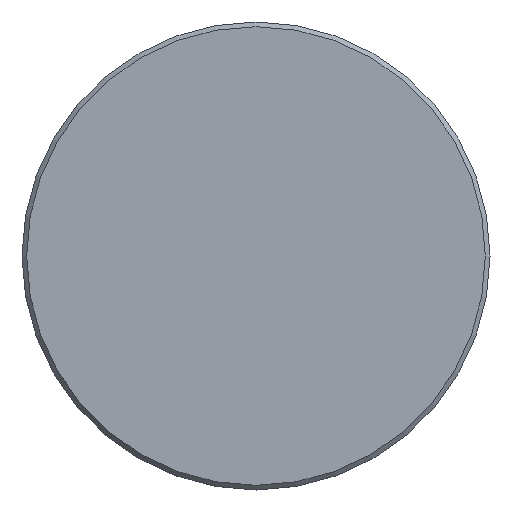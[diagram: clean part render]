
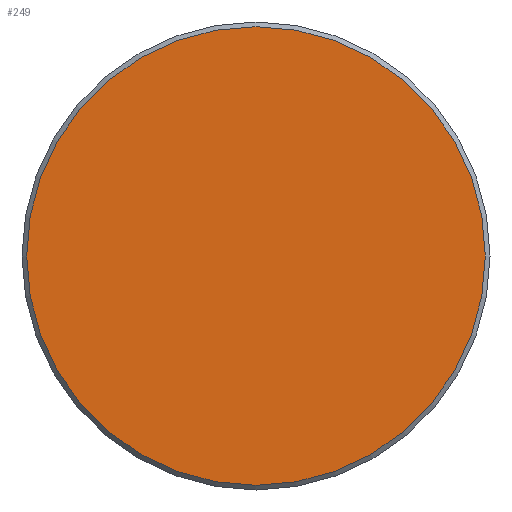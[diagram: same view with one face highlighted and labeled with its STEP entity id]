
A CAD part, front view. The second image highlights one B-rep face of the part: STEP entity #249.
In plain terms, the highlighted planar face has unit normal (0, -1, 0).
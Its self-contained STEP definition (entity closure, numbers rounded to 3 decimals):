
#249 = ADVANCED_FACE( '', ( #474 ), #475, .F. );
#474 = FACE_OUTER_BOUND( '', #674, .T. );
#475 = PLANE( '', #675 );
#674 = EDGE_LOOP( '', ( #1096 ) );
#675 = AXIS2_PLACEMENT_3D( '', #1097, #1098, #1099 );
#1096 = ORIENTED_EDGE( '', *, *, #1215, .T. );
#1097 = CARTESIAN_POINT( '', ( 24.5, 0., 0. ) );
#1098 = DIRECTION( '', ( 0., 1., 0. ) );
#1099 = DIRECTION( '', ( 0., 0., 1. ) );
#1215 = EDGE_CURVE( '', #1427, #1427, #1428, .T. );
#1427 = VERTEX_POINT( '', #1860 );
#1428 = CIRCLE( '', #1861, 24.5 );
#1860 = CARTESIAN_POINT( '', ( 0., 0., -24.5 ) );
#1861 = AXIS2_PLACEMENT_3D( '', #2095, #2096, #2097 );
#2095 = CARTESIAN_POINT( '', ( 0., 0., 0. ) );
#2096 = DIRECTION( '', ( 0., -1., 0. ) );
#2097 = DIRECTION( '', ( 0., 0., -1. ) );
